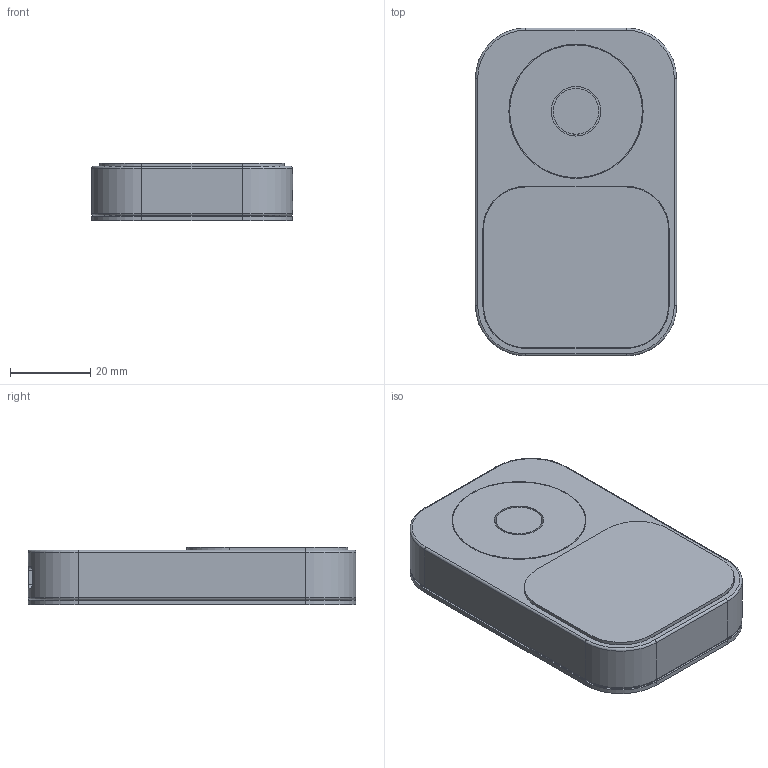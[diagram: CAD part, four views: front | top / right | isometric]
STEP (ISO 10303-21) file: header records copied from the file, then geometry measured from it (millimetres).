
FILE_DESCRIPTION(('FreeCAD Model'),'2;1');
FILE_NAME('Open CASCADE Shape Model','2026-09-22T01:38:07',('Author'),( ''),'Open CASCADE STEP processor 7.8','FreeCAD','Unknown');
FILE_SCHEMA(('AUTOMOTIVE_DESIGN { 1 0 10303 214 1 1 1 1 }'));
Length unit declared in the file: millimetre
Products named in the file (6): Q2AppearanceV2; 机身; 后盖; 圆环外观样件; 中心键外观样件; 屏幕外观占位片
Assembly tree (5 placements, depth 2):
  Q2AppearanceV2
    机身
    后盖
    圆环外观样件
    中心键外观样件
    屏幕外观占位片
Bounding box: 50 x 81.5 x 14.2 mm (x, y, z)
Volume: 15014.6 mm3; surface area: 23756.4 mm2
Topology: 5 solids, 5 shells, 186 faces, 459 edges, 302 vertices
Faces by surface type: plane 93, cylinder 85, torus 8
Full cylindrical faces by diameter (mm): 1.3 x6, 1.6 x4, 1.8 x2, 3.3 x2, 3.8 x4, 4 x4, 4.8 x1, 7.2 x1, 11.4 x1, 12.3 x1, 33 x1, 33.4 x1, 34.9 x1
Entity records: 5809 total; most frequent: CARTESIAN_POINT 1109, DIRECTION 1017, ORIENTED_EDGE 918, EDGE_CURVE 459, AXIS2_PLACEMENT_3D 378, VERTEX_POINT 302, LINE 261, VECTOR 261
